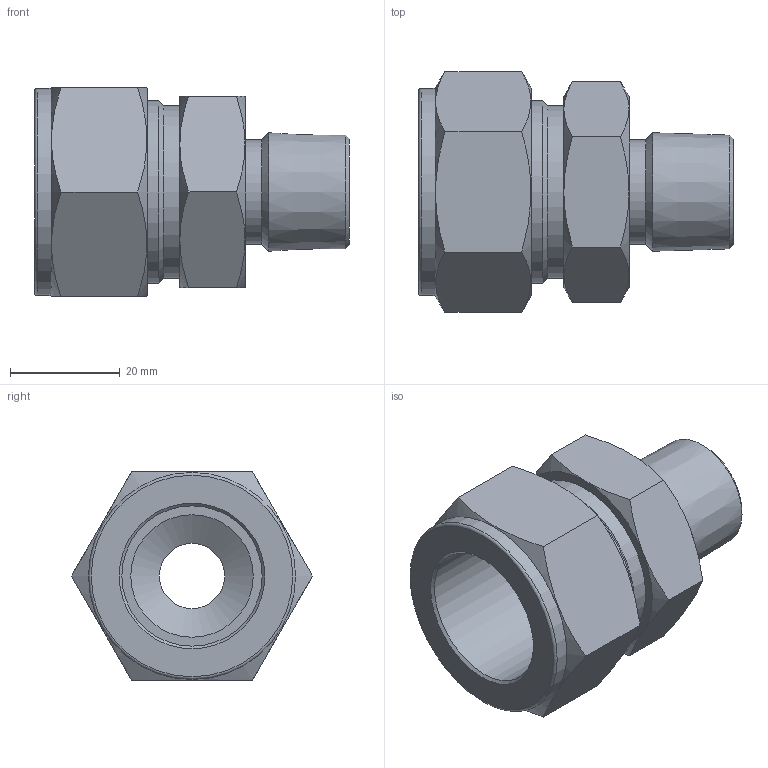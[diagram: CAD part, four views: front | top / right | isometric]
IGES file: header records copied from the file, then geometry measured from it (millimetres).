
Global section: file name: No Iges File Name specified; native system: Autodesk Inventor 2012; preprocessor: AutoDesk Inventor Iges Exporter R2012; author: 硅己绕,, ; organization: 11; date: 20150603.093440; units: millimetre
Bounding box: 57.46 x 43.99 x 38.1 mm (x, y, z)
Volume: 29103.7 mm3; surface area: 12016.2 mm2
Topology: 1 solids, 1 shells, 47 faces, 98 edges, 57 vertices
Faces by surface type: plane 18, cone 18, revolution 6, cylinder 4, torus 1
Full cylindrical faces by diameter (mm): 19 x1, 31.45 x1, 33.34 x1, 37.8 x1
